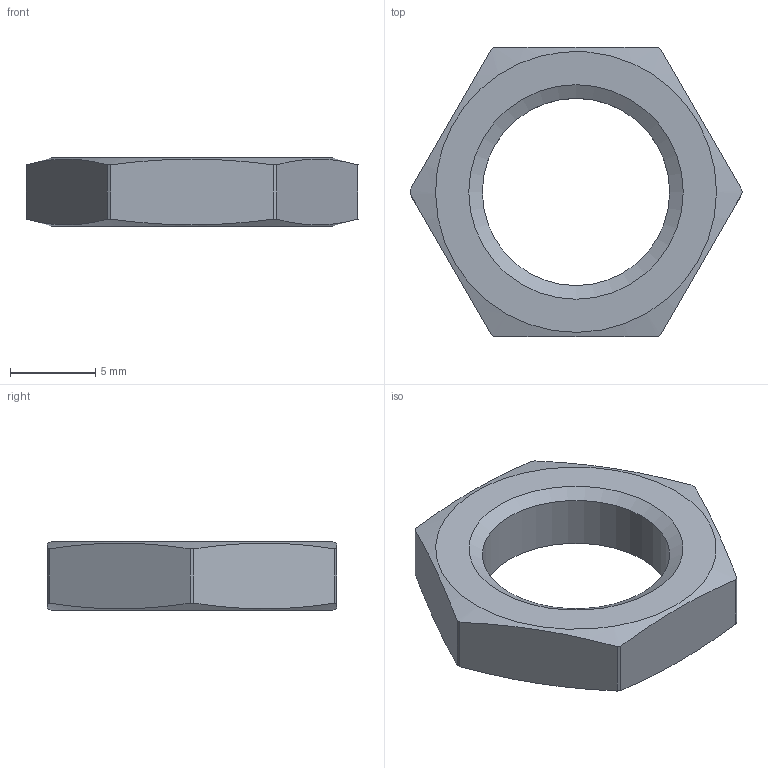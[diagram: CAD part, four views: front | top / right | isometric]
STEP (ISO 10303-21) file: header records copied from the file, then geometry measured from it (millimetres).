
FILE_DESCRIPTION((''),'2;1');
FILE_NAME('J:\Projekte\Kunststoff-Blechteile\Zeichnungen\Bibliothek Inventor\3D Solids\dbk+4\STP\M12x1 Mutter.stp','2010-01-26T12:55:09',('Oliver Liedtke'),(''),'Autodesk Inventor 2009','Autodesk Inventor 2009','');
FILE_SCHEMA(('AUTOMOTIVE_DESIGN { 1 0 10303 214 1 1 1 1 }'));
Length unit declared in the file: millimetre
Products named in the file (1): M12x1 Mutter
Bounding box: 19.5 x 17 x 4 mm (x, y, z)
Volume: 598.5 mm3; surface area: 641.2 mm2
Topology: 1 solids, 1 shells, 19 faces, 49 edges, 32 vertices
Faces by surface type: plane 8, cylinder 7, cone 4
Full cylindrical faces by diameter (mm): 11 x1
Entity records: 588 total; most frequent: CARTESIAN_POINT 116, DIRECTION 88, ORIENTED_EDGE 84, EDGE_CURVE 42, AXIS2_PLACEMENT_3D 38, VERTEX_POINT 30, EDGE_LOOP 26, STYLED_ITEM 20
